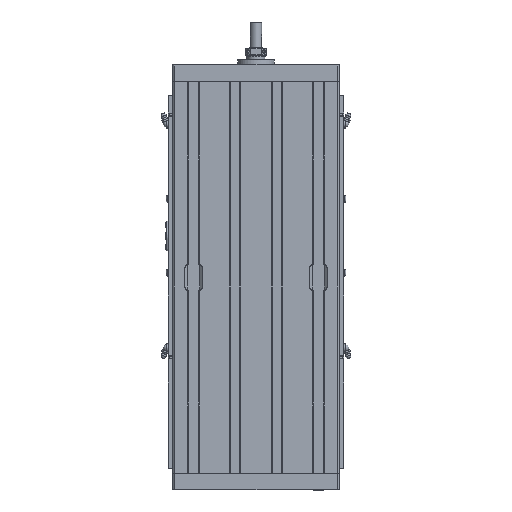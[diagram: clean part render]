
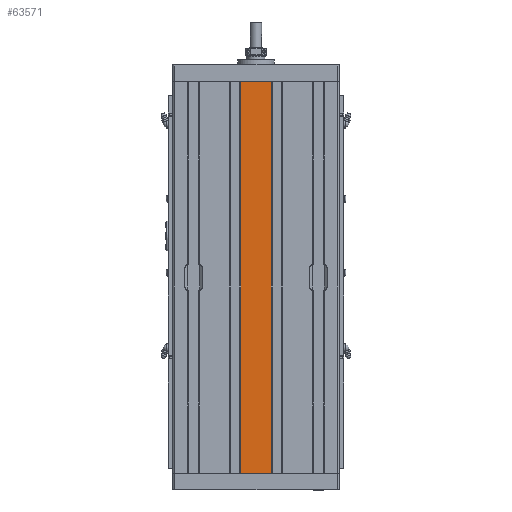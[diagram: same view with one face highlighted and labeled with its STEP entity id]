
A CAD part, front view. The second image highlights one B-rep face of the part: STEP entity #63571.
In plain terms, the highlighted planar face has unit normal (0, -1, 0).
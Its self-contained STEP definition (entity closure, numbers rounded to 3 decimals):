
#5753=FACE_OUTER_BOUND('',#9383,.T.);
#9383=EDGE_LOOP('',(#42355,#42356,#42357,#42358));
#13714=LINE('',#93512,#19643);
#13879=LINE('',#93977,#19808);
#14005=LINE('',#94270,#19934);
#14006=LINE('',#94272,#19935);
#19643=VECTOR('',#74848,10.);
#19808=VECTOR('',#75169,10.);
#19934=VECTOR('',#75493,10.);
#19935=VECTOR('',#75496,10.);
#25573=VERTEX_POINT('',#93509);
#25574=VERTEX_POINT('',#93511);
#25795=VERTEX_POINT('',#93974);
#25796=VERTEX_POINT('',#93976);
#31861=EDGE_CURVE('',#25573,#25574,#13714,.T.);
#32101=EDGE_CURVE('',#25795,#25796,#13879,.T.);
#32253=EDGE_CURVE('',#25573,#25796,#14005,.T.);
#32254=EDGE_CURVE('',#25574,#25795,#14006,.T.);
#42355=ORIENTED_EDGE('',*,*,#32253,.T.);
#42356=ORIENTED_EDGE('',*,*,#32101,.F.);
#42357=ORIENTED_EDGE('',*,*,#32254,.F.);
#42358=ORIENTED_EDGE('',*,*,#31861,.F.);
#59128=PLANE('',#67845);
#63571=ADVANCED_FACE('',(#5753),#59128,.T.);
#67845=AXIS2_PLACEMENT_3D('',#94271,#75494,#75495);
#74848=DIRECTION('',(-1.,0.,0.));
#75169=DIRECTION('',(1.,0.,0.));
#75493=DIRECTION('',(0.,0.,1.));
#75494=DIRECTION('center_axis',(0.,-1.,0.));
#75495=DIRECTION('ref_axis',(1.,0.,0.));
#75496=DIRECTION('',(0.,0.,1.));
#93509=CARTESIAN_POINT('',(16.4,-45.,-262.));
#93511=CARTESIAN_POINT('',(-16.4,-45.,-262.));
#93512=CARTESIAN_POINT('',(16.4,-45.,-262.));
#93974=CARTESIAN_POINT('',(-16.4,-45.,162.));
#93976=CARTESIAN_POINT('',(16.4,-45.,162.));
#93977=CARTESIAN_POINT('',(-16.4,-45.,162.));
#94270=CARTESIAN_POINT('',(16.4,-45.,0.));
#94271=CARTESIAN_POINT('Origin',(-16.4,-45.,0.));
#94272=CARTESIAN_POINT('',(-16.4,-45.,0.));
